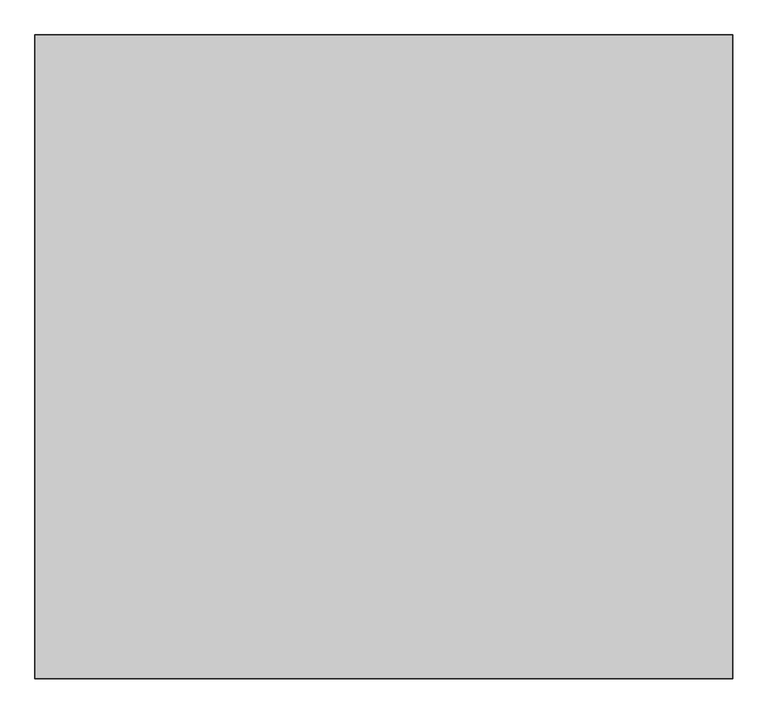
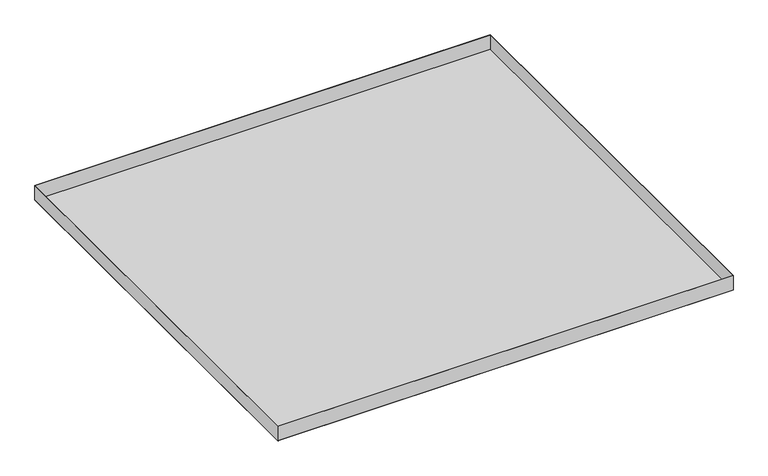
"""IFC4 building model written with IfcOpenShell, lengths in millimetres: proxy geometry, durlum_S7KS_RHOMBOS_panel : durlum_S7KS_RHOMBOS_panel."""

from ifc_helpers import new_model, si_unit, frame, origin, origin_with_axes, place, context, project, spatial, polyline, outline, extrude, source, transform, mapped, element, save


def generic_models_d966d1ea(model_context):
    return source(origin(), model_context, "Body", "SweptSolid", [
        extrude(outline(polyline([(595.0, 549.0), (595.0, -549.0), (-595.0, -549.0), (-595.0, 549.0), (595.0, 549.0)]), holes=[polyline([(594.4, 548.4), (-594.4, 548.4), (-594.4, -548.4), (594.4, -548.4), (594.4, 548.4)])]), frame((0.0, 0.0, 0.6), z_axis=(0.0, 0.0, 1.0), x_axis=(1.0, 0.0, 0.0)), (0.0, 0.0, 1.0), 39.4),
        extrude(outline(polyline([(595.0, 549.0), (595.0, -549.0), (-595.0, -549.0), (-595.0, 549.0), (595.0, 549.0)])), origin_with_axes(), (0.0, 0.0, 1.0), 0.6),
    ])


if __name__ == "__main__":
    model = new_model("IFC4")
    model_context = context("Model", 3, world=origin())
    ifc_project = project(units=[si_unit("LENGTHUNIT", "METRE", prefix="MILLI")], contexts=[model_context])
    site = spatial("IfcSite", under=ifc_project)
    building = spatial("IfcBuilding", under=site)
    placement = place(None, origin())
    generic_models_shape = generic_models_d966d1ea(model_context)
    element("IfcBuildingElementProxy", 1, Name="durlum_S7KS_RHOMBOS_panel : durlum_S7KS_RHOMBOS_panel", ObjectType="durlum_S7KS_RHOMBOS_panel : durlum_S7KS_RHOMBOS_panel", at=placement, inside=building, context=model_context, shape_type="MappedRepresentation", body=[
        mapped(generic_models_shape, transform((0.0, 0.0, 0.0), x_axis=(1.0, 0.0, 0.0), y_axis=(0.0, 1.0, 0.0), z_axis=(0.0, 0.0, 1.0))),
    ])
    save(model, "model.ifc")
